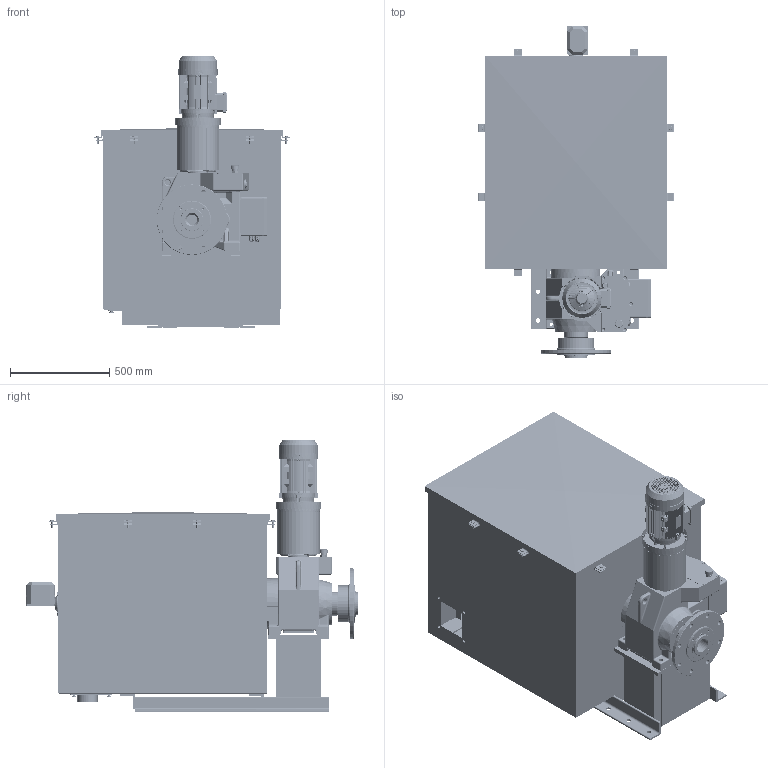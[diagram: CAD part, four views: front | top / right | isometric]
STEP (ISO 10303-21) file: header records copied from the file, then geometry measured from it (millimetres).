
FILE_DESCRIPTION(/* description */ (''),/* implementation_level */ '2;1');
FILE_NAME(/* name */ 'K:\NEMANJA\CABLE REEL\CABLE REEL DA\0700-6\07006002 DAPR-MCGBSR\STEP\76599 .stp',/* time_stamp */ '2017-03-16T11:45:15+01:00',/* author */ ('milman01'),/* organization */ ('Hillmar Industries Ltd.'),/* preprocessor_version */ 'ST-DEVELOPER v16.1',/* originating_system */ 'Autodesk Inventor 2016',/* authorisation */ '');
FILE_SCHEMA (('AUTOMOTIVE_DESIGN { 1 0 10303 214 3 1 1 }'));
Products named in the file (1): 76599 
Bounding box: 988 x 1676.14 x 1369.55 mm (x, y, z)
Volume: 46101188.3 mm3; surface area: 17560135 mm2
Topology: 23 solids, 23 shells, 6392 faces, 16926 edges, 10752 vertices
Faces by surface type: plane 3800, cylinder 1363, bspline 483, cone 481, torus 193, sphere 72
Full cylindrical faces by diameter (mm): 3 x4, 7 x4, 8 x12, 8.376 x13, 8.5 x5, 9 x19, 9.188 x8, 10 x29, 10.106 x15, 10.38 x5, 11 x20, 11.053 x4, 11.113 x2, 12 x22, 12.5 x6, 13 x4, 13.2 x5, 14 x26, 14.3 x8, 15 x9, 15.4 x8, 17.2 x4, 17.294 x4, 17.475 x1, 17.75 x1, 18 x2, 18.38 x4, 18.653 x1, 20 x4, 20.5 x4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
Entity records: 212071 total; most frequent: CARTESIAN_POINT 53342, ORIENTED_EDGE 32134, DIRECTION 29807, EDGE_CURVE 16046, VERTEX_POINT 10544, AXIS2_PLACEMENT_3D 10086, LINE 9635, VECTOR 9635
